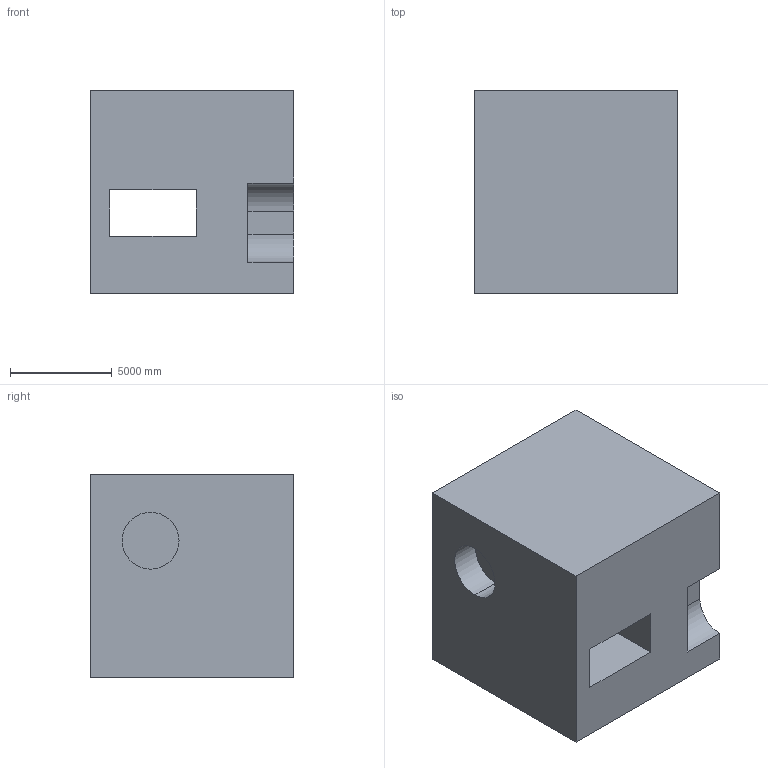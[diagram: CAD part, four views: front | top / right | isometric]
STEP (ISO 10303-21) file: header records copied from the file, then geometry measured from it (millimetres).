
FILE_DESCRIPTION (( 'STEP AP203' ), '1' );
FILE_NAME ('1209.STEP', '2022-08-18T13:11:54', ( 'user' ), ( '' ), 'SwSTEP 2.0', 'SolidWorks 2021', '' );
FILE_SCHEMA (( 'CONFIG_CONTROL_DESIGN' ));
Length unit declared in the file: centimetre
Products named in the file (1): 1209
Bounding box: 10000 x 10000 x 10000 mm (x, y, z)
Volume: 883240835662.1 mm3; surface area: 727581074.6 mm2
Topology: 1 solids, 1 shells, 17 faces, 42 edges, 28 vertices
Faces by surface type: plane 13, cylinder 4
Entity records: 585 total; most frequent: CARTESIAN_POINT 88, DIRECTION 86, ORIENTED_EDGE 84, EDGE_CURVE 42, VECTOR 34, LINE 34, VERTEX_POINT 28, AXIS2_PLACEMENT_3D 26
